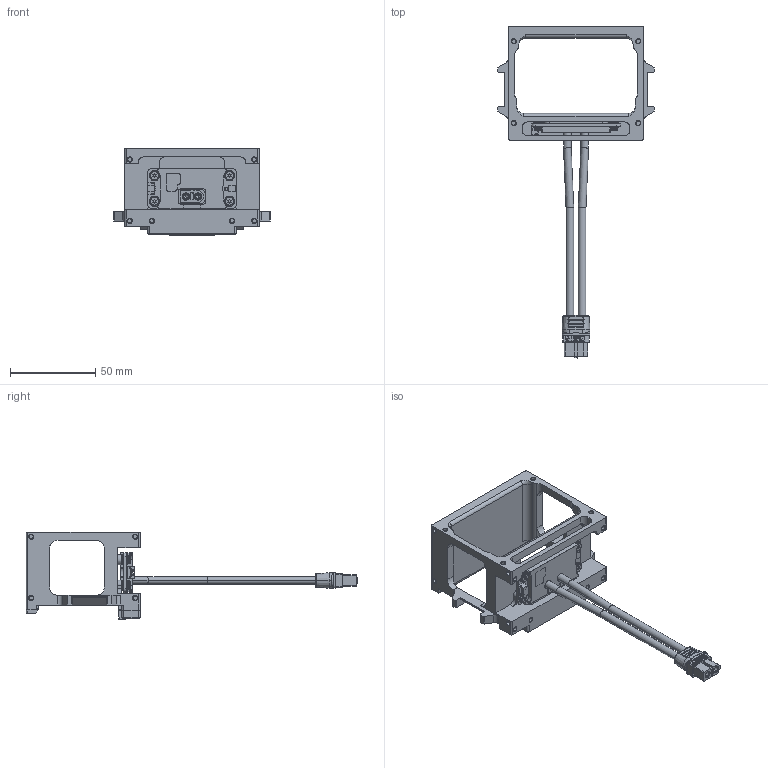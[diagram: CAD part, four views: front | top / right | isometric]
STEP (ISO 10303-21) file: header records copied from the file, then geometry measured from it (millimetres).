
FILE_DESCRIPTION((''),'2;1');
FILE_NAME('BATTERY_RACK_ASM','2024-11-07T17:31:27',('harry.weng'),(''),'CREO PARAMETRIC BY PTC INC, 2019164','CREO PARAMETRIC BY PTC INC, 2019164','');
FILE_SCHEMA(('CONFIG_CONTROL_DESIGN','SHAPE_APPEARANCE_LAYERS_GROUPS'));
Products named in the file (53): RUBRING-V01-20240614_4; 02_EA230_BATT_CON-M_HOUSING_1_1; 02_EA230_BATT_CON-M_GPIN_1_1; 02_EA230_BATT_CON-M_GPIN_2_1_1; 01_EA230_BATT_CON-M_ASM_1_ASM_1_ASM; YC_ST_LL000099_03_1; PC-F-01-V2-20240821_5; EVA-F-01-V2-20240821_9; PCBJY-F-01-V2-20240821_ASM_13_ASM; PC-B-01-V2-20240821_8; EVA-B-01-V2-20240821_4; PCBJY-B-01-V2-20240821_ASM_11_ASM; NAUO2__X2_52079664_X0_-_X2_62C9; NAUO1__X2_51F853F0_X0_-_X2_62C9; NAUO3__X2_52079664_X0_-_X2_62C9; XT60H-_X2_540E76D6_X0_-1_X2_51F; XT60H-F_V02_3D_ASM_1_ASM; XT60-WIRE_3; XT60-POWER_ASM_11_ASM; ASM0001_2; QRCODE_4X4_1; HOLE_PC6DC3P5_2; TP_C1P2_1; TP_C1_2; R1206-0P65_1; R0402_2; R0805_2; R0201_2; DO-214AC_2-4P65X2P8-2P42_2; SOD-523_2-1P2X0P8-0P77_2; C0402_D_2; L0402_C_1; L0603_C_2; F1206_2; ESD0201_1; SOD-882_2-1P02X0P62-0P5_2; SOD-323_1P7X1P3-1P05_2; C0201_A_2; C0805_D_2; C0603_C_2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
Assembly tree (134 placements, depth 6):
  BATTERY_RACK_ASM
    _V06-202409130001_ASM_12_ASM
      PCB-V02-2024082300_ASM_12_ASM
        RUBRING-V01-20240614_4  x4
        01_EA230_BATT_CON-M_ASM_1_ASM_1_ASM
          02_EA230_BATT_CON-M_HOUSING_1_1
          02_EA230_BATT_CON-M_GPIN_1_1  x4
          02_EA230_BATT_CON-M_GPIN_2_1_1  x5
        YC_ST_LL000099_03_1  x4
        PCBJY-F-01-V2-20240821_ASM_13_ASM
          PC-F-01-V2-20240821_5
          EVA-F-01-V2-20240821_9
        PCBJY-B-01-V2-20240821_ASM_11_ASM
          PC-B-01-V2-20240821_8
          EVA-B-01-V2-20240821_4
        XT60-POWER_ASM_11_ASM
          XT60H-F_V02_3D_ASM_1_ASM
            NAUO2__X2_52079664_X0_-_X2_62C9
            NAUO1__X2_51F853F0_X0_-_X2_62C9
            NAUO3__X2_52079664_X0_-_X2_62C9
            XT60H-_X2_540E76D6_X0_-1_X2_51F
          XT60-WIRE_3  x2
        PCB-02-20241008_ASM_2_ASM
          ASM0001_2
          QRCODE_4X4_1
          HOLE_PC6DC3P5_2  x2
          TP_C1P2_1  x10
          TP_C1_2  x9
          R1206-0P65_1  x2
          R0402_2  x3
          R0805_2  x2
          R0201_2  x33
          DO-214AC_2-4P65X2P8-2P42_2
          SOD-523_2-1P2X0P8-0P77_2
          C0402_D_2
          L0402_C_1
          L0603_C_2
          F1206_2  x2
          ESD0201_1  x2
          SOD-882_2-1P02X0P62-0P5_2
          SOD-323_1P7X1P3-1P05_2  x2
          C0201_A_2  x7
          C0805_D_2
          C0603_C_2
          C0402_B_2  x6
          SOT-23_3-1P9-2P9X1P6-1P25_2
          SOT-23_3-1P9-3X1P4-1P15_2
          X322508_2
          LED_4-1P6X1P6-0P7_3
          SOT-23_5-0P95-2P926X1P626-1P25_
          GH_3-1P25-7X4P05-4P35_H_2
          QFN_29-0P4-4X4-0P9-H2P8X2P8_2
      DCJ-V13-20241024_13
Bounding box: 92 x 194.7 x 51.16 mm (x, y, z)
Volume: 52723.3 mm3; surface area: 49548.2 mm2
Topology: 126 solids, 154 shells, 4127 faces, 10687 edges, 7077 vertices
Faces by surface type: plane 2980, cylinder 813, torus 98, extrusion 94, cone 88, bspline 46, sphere 8
Entity records: 120877 total; most frequent: CARTESIAN_POINT 22907, ORIENTED_EDGE 14612, DIRECTION 14259, EDGE_CURVE 7362, PRESENTATION_LAYER_ASSIGNMENT 6202, VECTOR 5411, LINE 5317, VERTEX_POINT 4867
